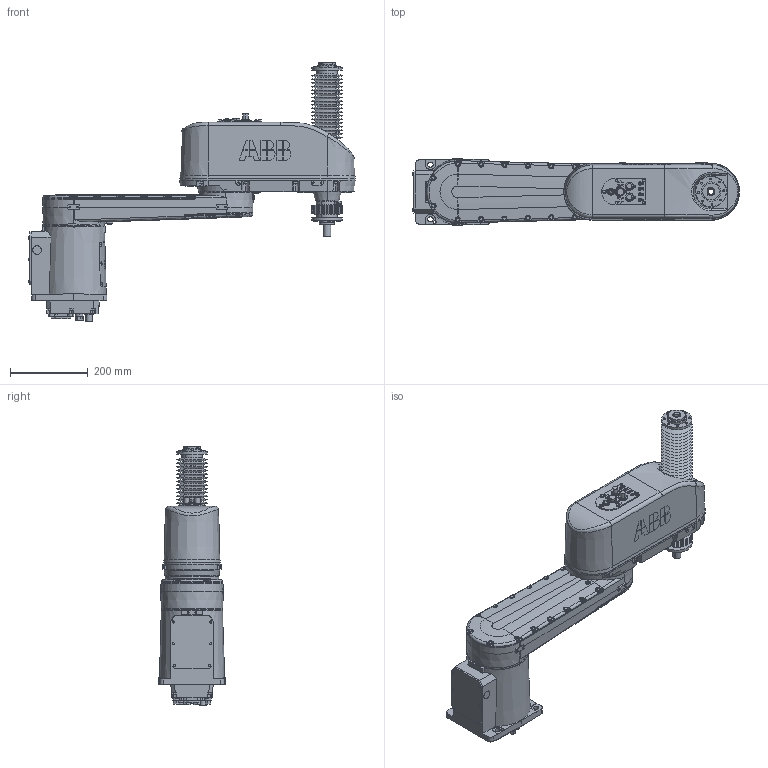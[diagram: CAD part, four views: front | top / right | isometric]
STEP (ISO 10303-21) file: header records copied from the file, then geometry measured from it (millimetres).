
FILE_DESCRIPTION (( 'STEP AP214' ), '1' );
FILE_NAME ('IRB920_6kg-650-145-IP54-BTM_OmniCore_rev00_Assembly.STEP', '2022-06-20T07:27:42', ( '' ), ( '' ), 'SwSTEP 2.0', 'SolidWorks 2020', '' );
FILE_SCHEMA (( 'AUTOMOTIVE_DESIGN' ));
Length unit declared in the file: millimetre
Products named in the file (5): IRB920_6kg-650-145-IP54-BTM_OmniCore_rev00_Assembly; IRB920_6kg-650-145-IP54-BTM_OmniCore_rev00_LINK3_CAD; IRB920_6kg-650-145-IP54-BTM_OmniCore_rev00_LINK1_CAD; IRB920_6kg-650-145-IP54-BTM_OmniCore_rev00_LINK0_CAD; IRB920_6kg-650-145-IP54-BTM_OmniCore_rev00_LINK2_CAD
Assembly tree (4 placements, depth 2):
  IRB920_6kg-650-145-IP54-BTM_OmniCore_rev00_Assembly
    IRB920_6kg-650-145-IP54-BTM_OmniCore_rev00_LINK0_CAD
    IRB920_6kg-650-145-IP54-BTM_OmniCore_rev00_LINK1_CAD
    IRB920_6kg-650-145-IP54-BTM_OmniCore_rev00_LINK2_CAD
    IRB920_6kg-650-145-IP54-BTM_OmniCore_rev00_LINK3_CAD
Bounding box: 839 x 170 x 663.63 mm (x, y, z)
Volume: 20910241.9 mm3; surface area: 1072516 mm2
Topology: 4 solids, 4 shells, 2536 faces, 6387 edges, 4110 vertices
Faces by surface type: plane 1286, cylinder 476, bspline 382, cone 377, torus 14, sphere 1
Entity records: 102047 total; most frequent: CARTESIAN_POINT 42196, ORIENTED_EDGE 12622, DIRECTION 10480, EDGE_CURVE 6311, VERTEX_POINT 4108, VECTOR 3724, LINE 3724, AXIS2_PLACEMENT_3D 3378
